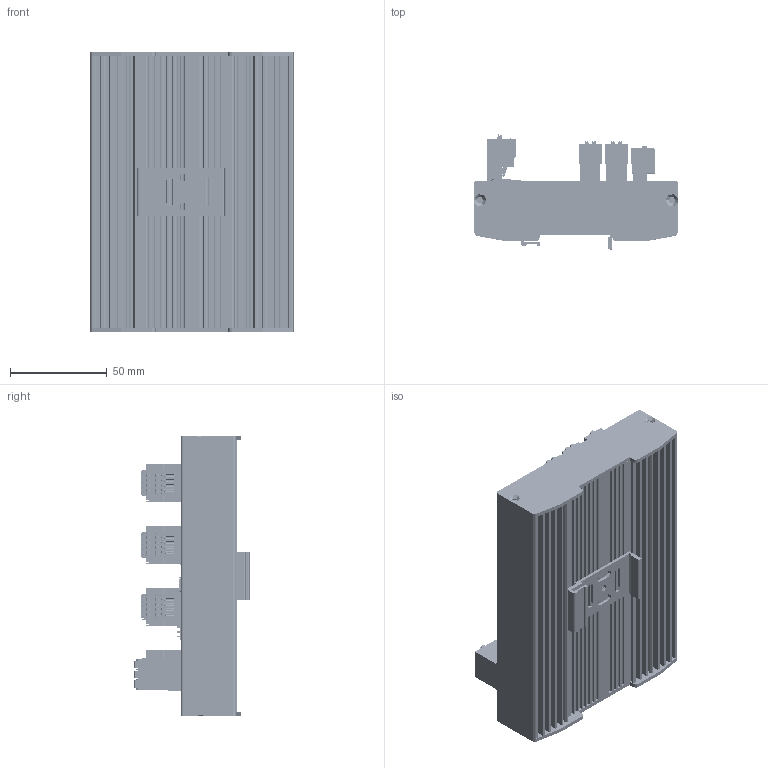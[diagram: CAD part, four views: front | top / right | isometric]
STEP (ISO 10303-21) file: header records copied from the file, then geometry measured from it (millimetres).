
FILE_DESCRIPTION (( 'STEP AP214' ), '1' );
FILE_NAME ('STD304EC_3D.STEP', '2025-05-27T17:47:33', ( '' ), ( '' ), 'SwSTEP 2.0', 'SolidWorks 2021', '' );
FILE_SCHEMA (( 'AUTOMOTIVE_DESIGN' ));
Length unit declared in the file: millimetre
Products named in the file (7): STD304EC_3D; STD304-05; STD304-04; STD304-06; STD304-01; STD304-02; STD304-03
Assembly tree (7 placements, depth 2):
  STD304EC_3D
    STD304-03
    STD304-01
    STD304-02
    STD304-04
    STD304-05
    STD304-06  x2
Bounding box: 105 x 59.48 x 144.11 mm (x, y, z)
Topology: 5 solids, 103 shells, 17467 faces, 47116 edges, 30856 vertices
Faces by surface type: plane 14259, cylinder 2718, bspline 268, cone 222
Full cylindrical faces by diameter (mm): 0.8 x2, 1.6 x2
Entity records: 551056 total; most frequent: CARTESIAN_POINT 112111, ORIENTED_EDGE 94050, DIRECTION 84709, EDGE_CURVE 47050, LINE 39917, VECTOR 39917, VERTEX_POINT 30814, AXIS2_PLACEMENT_3D 22396
